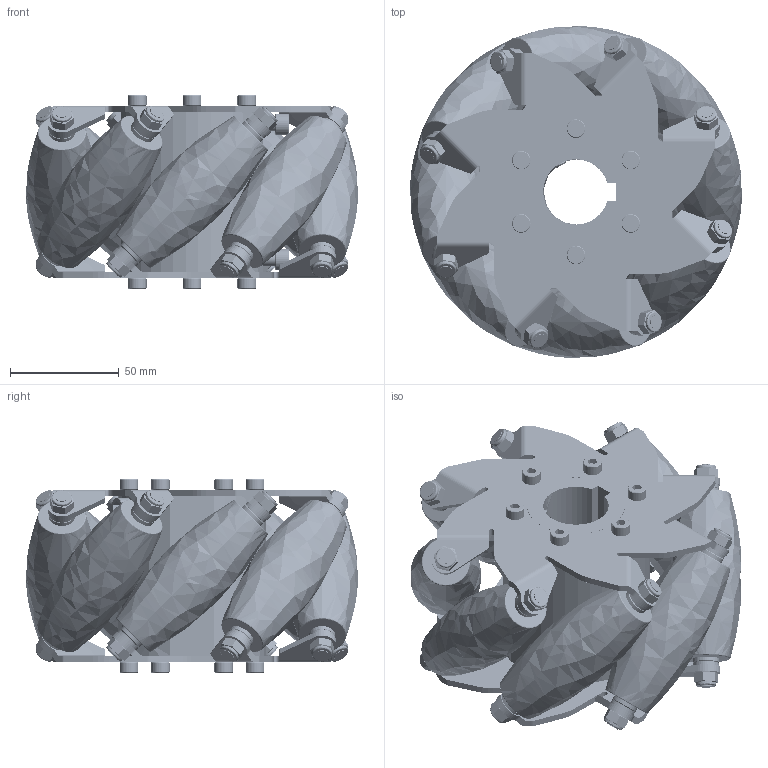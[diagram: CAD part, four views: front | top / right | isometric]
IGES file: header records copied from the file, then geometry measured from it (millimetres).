
Global section: file name: Filename.iges; native system: Open CASCADE 7.7; preprocessor: Open CASCADE IGES processor 7.7; author: ever7; date: 20261014.170452; units: millimetre
Bounding box: 152.32 x 152.32 x 89 mm (x, y, z)
Surface area: 220114.5 mm2 (no closed solid volume)
Topology: 0 solids, 0 shells, 1583 faces, 23690 edges, 23686 vertices
Faces by surface type: revolution 882, bspline 701
